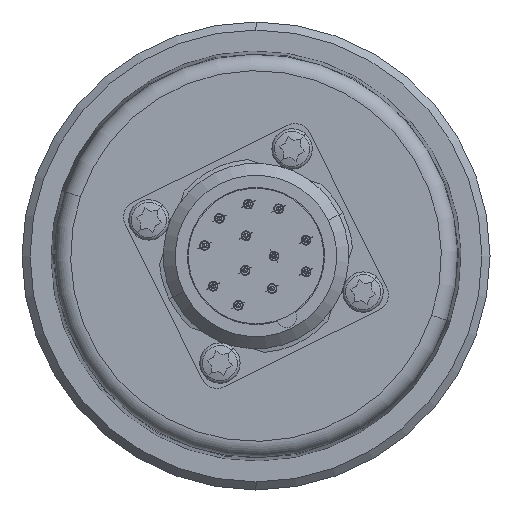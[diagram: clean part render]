
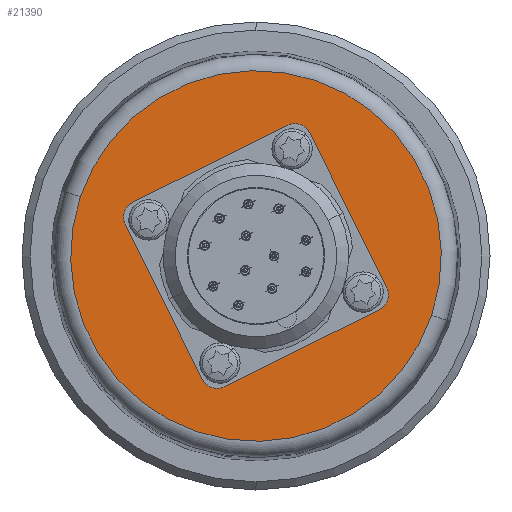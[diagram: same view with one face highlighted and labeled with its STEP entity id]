
A CAD part, left-side view. The second image highlights one B-rep face of the part: STEP entity #21390.
In plain terms, the highlighted planar face has unit normal (-1, 0, 0).
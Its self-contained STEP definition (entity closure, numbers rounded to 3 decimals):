
#4623 = DIRECTION ( 'NONE',  ( 0., 0.948, 0.319 ) ) ;
#4624 = DIRECTION ( 'NONE',  ( 1., 0., 0. ) ) ;
#4625 = CARTESIAN_POINT ( 'NONE',  ( -21., -13.268, -4.469 ) ) ;
#4626 = AXIS2_PLACEMENT_3D ( 'NONE', #4625, #4624, #4623 ) ;
#4627 = CIRCLE ( 'NONE', #4626, 1.389 ) ;
#4633 = CARTESIAN_POINT ( 'NONE',  ( -21., -11.952, -4.026 ) ) ;
#4638 = CARTESIAN_POINT ( 'NONE',  ( -21., -14.584, -4.912 ) ) ;
#4689 = CARTESIAN_POINT ( 'NONE',  ( -21., 21.77, 7.332 ) ) ;
#4740 = CARTESIAN_POINT ( 'NONE',  ( -21., 11.952, 4.026 ) ) ;
#4741 = CARTESIAN_POINT ( 'NONE',  ( -21., 14.584, 4.912 ) ) ;
#4766 = DIRECTION ( 'NONE',  ( 0., 0.948, 0.319 ) ) ;
#4767 = DIRECTION ( 'NONE',  ( 1., 0., 0. ) ) ;
#4768 = CARTESIAN_POINT ( 'NONE',  ( -21., 13.268, 4.469 ) ) ;
#4769 = AXIS2_PLACEMENT_3D ( 'NONE', #4768, #4767, #4766 ) ;
#4770 = CIRCLE ( 'NONE', #4769, 1.389 ) ;
#4873 = CARTESIAN_POINT ( 'NONE',  ( -21., -21.77, -7.332 ) ) ;
#4878 = DIRECTION ( 'NONE',  ( 0., 0.948, 0.319 ) ) ;
#4879 = DIRECTION ( 'NONE',  ( -1., 0., 0. ) ) ;
#4880 = CARTESIAN_POINT ( 'NONE',  ( -21., 0., 0. ) ) ;
#4881 = AXIS2_PLACEMENT_3D ( 'NONE', #4880, #4879, #4878 ) ;
#4882 = CIRCLE ( 'NONE', #4881, 22.972 ) ;
#6687 = CARTESIAN_POINT ( 'NONE',  ( -21., 3.153, -13.712 ) ) ;
#6767 = CARTESIAN_POINT ( 'NONE',  ( -21., -5.785, 12.825 ) ) ;
#6772 = DIRECTION ( 'NONE',  ( 0., 0.948, 0.319 ) ) ;
#6773 = DIRECTION ( 'NONE',  ( 1., 0., 0. ) ) ;
#6774 = CARTESIAN_POINT ( 'NONE',  ( -21., 4.469, -13.268 ) ) ;
#6775 = AXIS2_PLACEMENT_3D ( 'NONE', #6774, #6773, #6772 ) ;
#6776 = CIRCLE ( 'NONE', #6775, 1.389 ) ;
#6799 = DIRECTION ( 'NONE',  ( 0., 0.948, 0.319 ) ) ;
#6800 = DIRECTION ( 'NONE',  ( 1., 0., 0. ) ) ;
#6801 = CARTESIAN_POINT ( 'NONE',  ( -21., -4.469, 13.268 ) ) ;
#6802 = AXIS2_PLACEMENT_3D ( 'NONE', #6801, #6800, #6799 ) ;
#6803 = CIRCLE ( 'NONE', #6802, 1.389 ) ;
#6884 = CARTESIAN_POINT ( 'NONE',  ( -21., 5.785, -12.825 ) ) ;
#6994 = CARTESIAN_POINT ( 'NONE',  ( -21., -3.153, 13.712 ) ) ;
#17395 = DIRECTION ( 'NONE',  ( 0., -0.948, -0.319 ) ) ;
#17396 = DIRECTION ( 'NONE',  ( -1., 0., 0. ) ) ;
#17397 = CARTESIAN_POINT ( 'NONE',  ( -21., 0., 0. ) ) ;
#17398 = AXIS2_PLACEMENT_3D ( 'NONE', #17397, #17396, #17395 ) ;
#17399 = CIRCLE ( 'NONE', #17398, 11.5 ) ;
#17450 = CARTESIAN_POINT ( 'NONE',  ( -21., -10.898, -3.671 ) ) ;
#17454 = CARTESIAN_POINT ( 'NONE',  ( -21., 10.898, 3.671 ) ) ;
#21345 = EDGE_CURVE ( 'NONE', #26747, #26765, #36688, .T. ) ;
#21366 = ORIENTED_EDGE ( 'NONE', *, *, #26746, .F. ) ;
#21367 = ORIENTED_EDGE ( 'NONE', *, *, #21345, .F. ) ;
#21368 = ORIENTED_EDGE ( 'NONE', *, *, #21369, .T. ) ;
#21369 = EDGE_CURVE ( 'NONE', #23418, #23416, #36825, .T. ) ;
#21370 = ORIENTED_EDGE ( 'NONE', *, *, #24103, .T. ) ;
#21371 = EDGE_LOOP ( 'NONE', ( #21370, #21382 ) ) ;
#21372 = EDGE_LOOP ( 'NONE', ( #21385, #21368 ) ) ;
#21373 = ORIENTED_EDGE ( 'NONE', *, *, #21384, .T. ) ;
#21374 = EDGE_CURVE ( 'NONE', #24174, #24098, #36820, .T. ) ;
#21375 = EDGE_CURVE ( 'NONE', #23439, #23520, #36815, .T. ) ;
#21376 = ORIENTED_EDGE ( 'NONE', *, *, #23517, .T. ) ;
#21377 = EDGE_LOOP ( 'NONE', ( #21367, #21366 ) ) ;
#21378 = EDGE_CURVE ( 'NONE', #24133, #24067, #36810, .T. ) ;
#21379 = EDGE_LOOP ( 'NONE', ( #21380, #21381 ) ) ;
#21380 = ORIENTED_EDGE ( 'NONE', *, *, #24096, .T. ) ;
#21381 = ORIENTED_EDGE ( 'NONE', *, *, #21378, .T. ) ;
#21382 = ORIENTED_EDGE ( 'NONE', *, *, #21374, .T. ) ;
#21383 = EDGE_LOOP ( 'NONE', ( #21386, #21376 ) ) ;
#21384 = EDGE_CURVE ( 'NONE', #23458, #23459, #36804, .T. ) ;
#21385 = ORIENTED_EDGE ( 'NONE', *, *, #23422, .T. ) ;
#21386 = ORIENTED_EDGE ( 'NONE', *, *, #21375, .T. ) ;
#21390 = ADVANCED_FACE ( 'NONE', ( #36848, #36843, #36842, #36841, #36840, #36839 ), #36878, .F. ) ;
#21394 = EDGE_LOOP ( 'NONE', ( #21398, #21373 ) ) ;
#21398 = ORIENTED_EDGE ( 'NONE', *, *, #23465, .T. ) ;
#23416 = VERTEX_POINT ( 'NONE', #4638 ) ;
#23418 = VERTEX_POINT ( 'NONE', #4633 ) ;
#23422 = EDGE_CURVE ( 'NONE', #23416, #23418, #4627, .T. ) ;
#23439 = VERTEX_POINT ( 'NONE', #4689 ) ;
#23458 = VERTEX_POINT ( 'NONE', #4741 ) ;
#23459 = VERTEX_POINT ( 'NONE', #4740 ) ;
#23465 = EDGE_CURVE ( 'NONE', #23459, #23458, #4770, .T. ) ;
#23517 = EDGE_CURVE ( 'NONE', #23520, #23439, #4882, .T. ) ;
#23520 = VERTEX_POINT ( 'NONE', #4873 ) ;
#24067 = VERTEX_POINT ( 'NONE', #6687 ) ;
#24096 = EDGE_CURVE ( 'NONE', #24067, #24133, #6776, .T. ) ;
#24098 = VERTEX_POINT ( 'NONE', #6767 ) ;
#24103 = EDGE_CURVE ( 'NONE', #24098, #24174, #6803, .T. ) ;
#24133 = VERTEX_POINT ( 'NONE', #6884 ) ;
#24174 = VERTEX_POINT ( 'NONE', #6994 ) ;
#26746 = EDGE_CURVE ( 'NONE', #26765, #26747, #17399, .T. ) ;
#26747 = VERTEX_POINT ( 'NONE', #17450 ) ;
#26765 = VERTEX_POINT ( 'NONE', #17454 ) ;
#36684 = DIRECTION ( 'NONE',  ( 0., -0.948, -0.319 ) ) ;
#36685 = DIRECTION ( 'NONE',  ( -1., 0., 0. ) ) ;
#36686 = CARTESIAN_POINT ( 'NONE',  ( -21., 0., 0. ) ) ;
#36687 = AXIS2_PLACEMENT_3D ( 'NONE', #36686, #36685, #36684 ) ;
#36688 = CIRCLE ( 'NONE', #36687, 11.5 ) ;
#36800 = DIRECTION ( 'NONE',  ( 0., 0.948, 0.319 ) ) ;
#36801 = DIRECTION ( 'NONE',  ( 1., 0., 0. ) ) ;
#36802 = CARTESIAN_POINT ( 'NONE',  ( -21., 13.268, 4.469 ) ) ;
#36803 = AXIS2_PLACEMENT_3D ( 'NONE', #36802, #36801, #36800 ) ;
#36804 = CIRCLE ( 'NONE', #36803, 1.389 ) ;
#36806 = DIRECTION ( 'NONE',  ( 0., 0.948, 0.319 ) ) ;
#36807 = DIRECTION ( 'NONE',  ( 1., 0., 0. ) ) ;
#36808 = CARTESIAN_POINT ( 'NONE',  ( -21., 4.469, -13.268 ) ) ;
#36809 = AXIS2_PLACEMENT_3D ( 'NONE', #36808, #36807, #36806 ) ;
#36810 = CIRCLE ( 'NONE', #36809, 1.389 ) ;
#36811 = DIRECTION ( 'NONE',  ( 0., 0.948, 0.319 ) ) ;
#36812 = DIRECTION ( 'NONE',  ( -1., 0., 0. ) ) ;
#36813 = CARTESIAN_POINT ( 'NONE',  ( -21., 0., 0. ) ) ;
#36814 = AXIS2_PLACEMENT_3D ( 'NONE', #36813, #36812, #36811 ) ;
#36815 = CIRCLE ( 'NONE', #36814, 22.972 ) ;
#36816 = DIRECTION ( 'NONE',  ( 0., 0.948, 0.319 ) ) ;
#36817 = DIRECTION ( 'NONE',  ( 1., 0., 0. ) ) ;
#36818 = CARTESIAN_POINT ( 'NONE',  ( -21., -4.469, 13.268 ) ) ;
#36819 = AXIS2_PLACEMENT_3D ( 'NONE', #36818, #36817, #36816 ) ;
#36820 = CIRCLE ( 'NONE', #36819, 1.389 ) ;
#36821 = DIRECTION ( 'NONE',  ( 0., 0.948, 0.319 ) ) ;
#36822 = DIRECTION ( 'NONE',  ( 1., 0., 0. ) ) ;
#36823 = CARTESIAN_POINT ( 'NONE',  ( -21., -13.268, -4.469 ) ) ;
#36824 = AXIS2_PLACEMENT_3D ( 'NONE', #36823, #36822, #36821 ) ;
#36825 = CIRCLE ( 'NONE', #36824, 1.389 ) ;
#36839 = FACE_BOUND ( 'NONE', #21377, .T. ) ;
#36840 = FACE_OUTER_BOUND ( 'NONE', #21383, .T. ) ;
#36841 = FACE_BOUND ( 'NONE', #21372, .T. ) ;
#36842 = FACE_BOUND ( 'NONE', #21371, .T. ) ;
#36843 = FACE_BOUND ( 'NONE', #21379, .T. ) ;
#36848 = FACE_BOUND ( 'NONE', #21394, .T. ) ;
#36874 = DIRECTION ( 'NONE',  ( 0., 0.948, 0.319 ) ) ;
#36875 = DIRECTION ( 'NONE',  ( 1., 0., 0. ) ) ;
#36876 = CARTESIAN_POINT ( 'NONE',  ( -21., 0., 0. ) ) ;
#36877 = AXIS2_PLACEMENT_3D ( 'NONE', #36876, #36875, #36874 ) ;
#36878 = PLANE ( 'NONE',  #36877 ) ;
